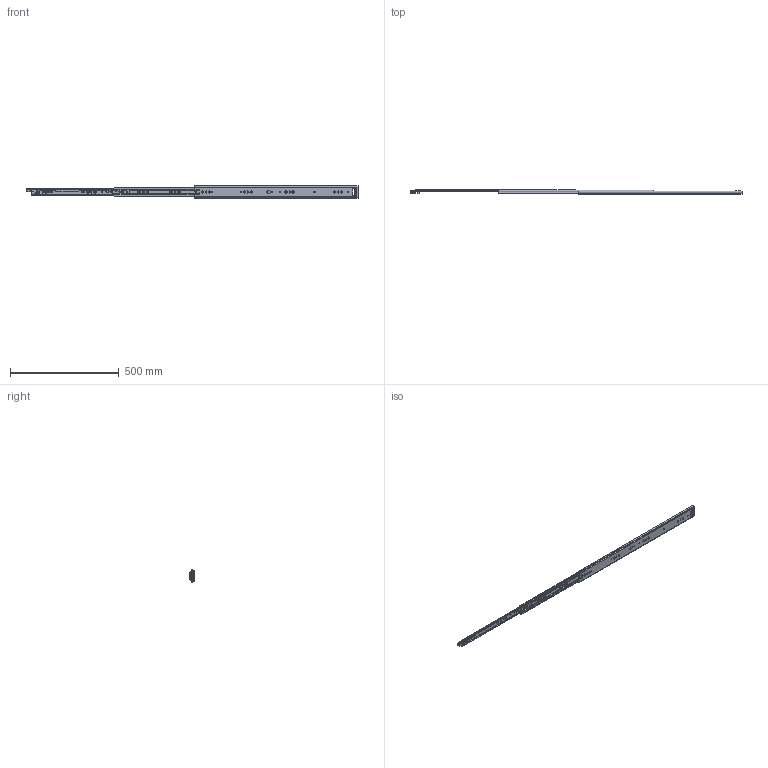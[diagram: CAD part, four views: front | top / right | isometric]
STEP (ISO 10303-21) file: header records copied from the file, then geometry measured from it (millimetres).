
FILE_DESCRIPTION((''),'2;1');
FILE_NAME('KP-57-01ZUZHUANGTU-30YOU_ASM','2023-04-03T',('jishu015'),(''),'PRO/ENGINEER BY PARAMETRIC TECHNOLOGY CORPORATION, 2010280','PRO/ENGINEER BY PARAMETRIC TECHNOLOGY CORPORATION, 2010280','');
FILE_SCHEMA(('CONFIG_CONTROL_DESIGN'));
Products named in the file (21): KP-57-01WEIKE-18____________; 1057WEIJIAO____________; WAIKE___________ASM; KP-57-01ZHONGGUI-18____________; ZHONGGUIPEIJIAN-11__________; ZHONGGUISUOKOU-11__________; KP-57-01ZHONGGUI-18_____________ASM; 1057XIAOZHUJIA____________; 1057-5-6GANZHU____________; 1057XIAOZHUJIA-14GE_____________ASM; KP-57-01NEIGUI-18____________; PJ-57-08__________; DIAOPIAN-11__________; 50XINSUOKOU-1__________; 1053-3SBANJI122________; JIAO11________; KP-57-01NEIGUI-18_____________ASM; 1053ZHUTIAO-175________________; 53-5-6GANZHU________________; 1053ZHUTIAO-175MM___________ASM; KP-57-01ZUZHUANGTU-30YOU_ASM
Assembly tree (84 placements, depth 3):
  KP-57-01ZUZHUANGTU-30YOU_ASM
    WAIKE___________ASM
      KP-57-01WEIKE-18____________
      1057WEIJIAO____________
    KP-57-01ZHONGGUI-18_____________ASM
      KP-57-01ZHONGGUI-18____________
      ZHONGGUIPEIJIAN-11__________
      ZHONGGUISUOKOU-11__________
    1057XIAOZHUJIA-14GE_____________ASM
      1057XIAOZHUJIA____________
      1057-5-6GANZHU____________  x52
    KP-57-01NEIGUI-18_____________ASM
      KP-57-01NEIGUI-18____________
      PJ-57-08__________
      DIAOPIAN-11__________
      50XINSUOKOU-1__________
      1053-3SBANJI122________
      JIAO11________
    1053ZHUTIAO-175MM___________ASM  x2
      1053ZHUTIAO-175________________
      53-5-6GANZHU________________
Bounding box: 1526.96 x 19 x 57.67 mm (x, y, z)
Volume: 326994.8 mm3; surface area: 356124.4 mm2
Topology: 94 solids, 94 shells, 2453 faces, 7091 edges, 4439 vertices
Faces by surface type: cylinder 1053, plane 1004, sphere 167, bspline 111, cone 76, extrusion 23, torus 19
Entity records: 79719 total; most frequent: CARTESIAN_POINT 19712, ORIENTED_EDGE 12722, DIRECTION 12333, EDGE_CURVE 6361, AXIS2_PLACEMENT_3D 4251, VERTEX_POINT 4115, VECTOR 3831, LINE 3808
